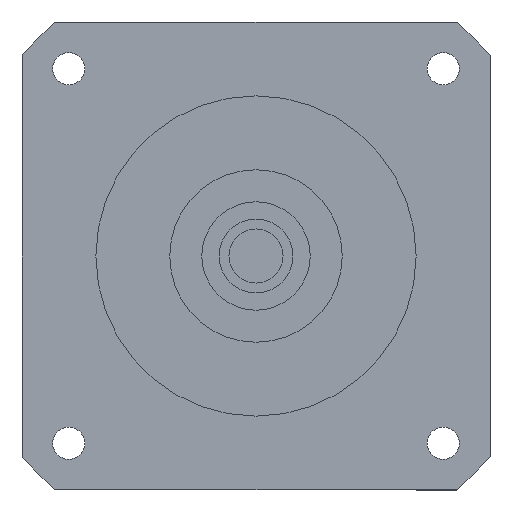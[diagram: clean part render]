
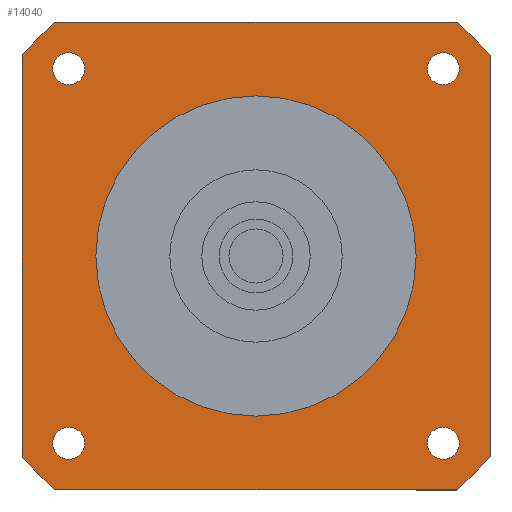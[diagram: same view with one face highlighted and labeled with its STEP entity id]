
A CAD part, left-side view. The second image highlights one B-rep face of the part: STEP entity #14040.
In plain terms, the highlighted planar face has unit normal (-1, 0, 0) as drawn and (0, 0, -1) by its records, which use the part's own axes.
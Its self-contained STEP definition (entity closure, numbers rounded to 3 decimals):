
#10240=CARTESIAN_POINT('',(95.,-81.24,-59.7));
#10250=VERTEX_POINT('',#10240);
#10300=CARTESIAN_POINT('',(0.,0.,
-59.7));
#10310=DIRECTION('',(0.,0.,-1.));
#10320=DIRECTION('',(1.,0.,0.));
#10330=AXIS2_PLACEMENT_3D('',#10300,#10310,#10320);
#10340=CIRCLE('',#10330,125.);
#10350=CARTESIAN_POINT('',(81.24,-95.,-59.7));
#10360=VERTEX_POINT('',#10350);
#10370=EDGE_CURVE('',#10250,#10360,#10340,.T.);
#12470=CARTESIAN_POINT('',(69.514,-76.014,-59.7));
#12480=VERTEX_POINT('',#12470);
#12510=CARTESIAN_POINT('',(76.014,-76.014,-59.7));
#12520=DIRECTION('',(0.,0.,-1.));
#12530=DIRECTION('',(1.,0.,0.));
#12540=AXIS2_PLACEMENT_3D('',#12510,#12520,#12530);
#12550=CIRCLE('',#12540,6.5);
#12560=CARTESIAN_POINT('',(82.514,-76.014,-59.7));
#12570=VERTEX_POINT('',#12560);
#12580=EDGE_CURVE('',#12570,#12480,#12550,.T.);
#12700=CARTESIAN_POINT('',(95.,95.,-59.7));
#12710=DIRECTION('',(0.,0.,-1.));
#12720=DIRECTION('',(1.,0.,0.));
#12730=AXIS2_PLACEMENT_3D('',#12700,#12710,#12720);
#12740=PLANE('',#12730);
#12750=CARTESIAN_POINT('',(-76.014,76.014,-59.7));
#12760=DIRECTION('',(0.,0.,-1.));
#12770=DIRECTION('',(-1.,0.,0.));
#12780=AXIS2_PLACEMENT_3D('',#12750,#12760,#12770);
#12790=CIRCLE('',#12780,6.5);
#12800=CARTESIAN_POINT('',(-82.514,76.014,-59.7));
#12810=VERTEX_POINT('',#12800);
#12820=CARTESIAN_POINT('',(-69.514,76.014,-59.7));
#12830=VERTEX_POINT('',#12820);
#12840=EDGE_CURVE('',#12810,#12830,#12790,.T.);
#12850=ORIENTED_EDGE('',*,*,#12840,.F.);
#12860=EDGE_CURVE('',#12830,#12810,#12790,.T.);
#12870=ORIENTED_EDGE('',*,*,#12860,.F.);
#12880=EDGE_LOOP('',(#12870,#12850));
#12890=FACE_BOUND('',#12880,.T.);
#12900=CARTESIAN_POINT('',(76.014,76.014,-59.7));
#12910=DIRECTION('',(0.,0.,-1.));
#12920=DIRECTION('',(0.,1.,0.));
#12930=AXIS2_PLACEMENT_3D('',#12900,#12910,#12920);
#12940=CIRCLE('',#12930,6.5);
#12950=CARTESIAN_POINT('',(76.014,82.514,-59.7));
#12960=VERTEX_POINT('',#12950);
#12970=CARTESIAN_POINT('',(76.014,69.514,-59.7));
#12980=VERTEX_POINT('',#12970);
#12990=EDGE_CURVE('',#12960,#12980,#12940,.T.);
#13000=ORIENTED_EDGE('',*,*,#12990,.F.);
#13010=EDGE_CURVE('',#12980,#12960,#12940,.T.);
#13020=ORIENTED_EDGE('',*,*,#13010,.F.);
#13030=EDGE_LOOP('',(#13020,#13000));
#13040=FACE_BOUND('',#13030,.T.);
#13050=CARTESIAN_POINT('',(0.,0.,
-59.7));
#13060=DIRECTION('',(0.,0.,1.));
#13070=DIRECTION('',(0.,1.,0.));
#13080=AXIS2_PLACEMENT_3D('',#13050,#13060,#13070);
#13090=CIRCLE('',#13080,65.);
#13100=CARTESIAN_POINT('',(-65.,0.,-59.7));
#13110=VERTEX_POINT('',#13100);
#13120=CARTESIAN_POINT('',(65.,0.,-59.7));
#13130=VERTEX_POINT('',#13120);
#13140=EDGE_CURVE('',#13110,#13130,#13090,.T.);
#13150=ORIENTED_EDGE('',*,*,#13140,.T.);
#13160=CARTESIAN_POINT('',(0.,65.,-59.7));
#13170=VERTEX_POINT('',#13160);
#13180=EDGE_CURVE('',#13170,#13110,#13090,.T.);
#13190=ORIENTED_EDGE('',*,*,#13180,.T.);
#13200=EDGE_CURVE('',#13130,#13170,#13090,.T.);
#13210=ORIENTED_EDGE('',*,*,#13200,.T.);
#13220=EDGE_LOOP('',(#13210,#13190,#13150));
#13230=FACE_BOUND('',#13220,.T.);
#13240=ORIENTED_EDGE('',*,*,#12580,.F.);
#13250=EDGE_CURVE('',#12480,#12570,#12550,.T.);
#13260=ORIENTED_EDGE('',*,*,#13250,.F.);
#13270=EDGE_LOOP('',(#13260,#13240));
#13280=FACE_BOUND('',#13270,.T.);
#13290=CARTESIAN_POINT('',(-76.014,-76.014,-59.7));
#13300=DIRECTION('',(0.,0.,-1.));
#13310=DIRECTION('',(0.,-1.,0.));
#13320=AXIS2_PLACEMENT_3D('',#13290,#13300,#13310);
#13330=CIRCLE('',#13320,6.5);
#13340=CARTESIAN_POINT('',(-76.014,-82.514,-59.7));
#13350=VERTEX_POINT('',#13340);
#13360=CARTESIAN_POINT('',(-76.014,-69.514,-59.7));
#13370=VERTEX_POINT('',#13360);
#13380=EDGE_CURVE('',#13350,#13370,#13330,.T.);
#13390=ORIENTED_EDGE('',*,*,#13380,.F.);
#13400=EDGE_CURVE('',#13370,#13350,#13330,.T.);
#13410=ORIENTED_EDGE('',*,*,#13400,.F.);
#13420=EDGE_LOOP('',(#13410,#13390));
#13430=FACE_BOUND('',#13420,.T.);
#13440=CARTESIAN_POINT('',(-95.,95.,-59.7));
#13450=DIRECTION('',(1.,0.,0.));
#13460=VECTOR('',#13450,1000.);
#13470=LINE('',#13440,#13460);
#13480=CARTESIAN_POINT('',(-81.24,95.,-59.7));
#13490=VERTEX_POINT('',#13480);
#13500=CARTESIAN_POINT('',(81.24,95.,-59.7));
#13510=VERTEX_POINT('',#13500);
#13520=EDGE_CURVE('',#13490,#13510,#13470,.T.);
#13530=ORIENTED_EDGE('',*,*,#13520,.T.);
#13540=CARTESIAN_POINT('',(0.,0.,
-59.7));
#13550=DIRECTION('',(0.,0.,-1.));
#13560=DIRECTION('',(1.,0.,0.));
#13570=AXIS2_PLACEMENT_3D('',#13540,#13550,#13560);
#13580=CIRCLE('',#13570,125.);
#13590=CARTESIAN_POINT('',(-95.,81.24,-59.7));
#13600=VERTEX_POINT('',#13590);
#13610=EDGE_CURVE('',#13600,#13490,#13580,.T.);
#13620=ORIENTED_EDGE('',*,*,#13610,.T.);
#13630=CARTESIAN_POINT('',(-95.,-95.,-59.7));
#13640=DIRECTION('',(0.,1.,0.));
#13650=VECTOR('',#13640,1000.);
#13660=LINE('',#13630,#13650);
#13670=CARTESIAN_POINT('',(-95.,-81.24,-59.7));
#13680=VERTEX_POINT('',#13670);
#13690=EDGE_CURVE('',#13680,#13600,#13660,.T.);
#13700=ORIENTED_EDGE('',*,*,#13690,.T.);
#13710=CARTESIAN_POINT('',(0.,0.,
-59.7));
#13720=DIRECTION('',(0.,0.,-1.));
#13730=DIRECTION('',(1.,0.,0.));
#13740=AXIS2_PLACEMENT_3D('',#13710,#13720,#13730);
#13750=CIRCLE('',#13740,125.);
#13760=CARTESIAN_POINT('',(-81.24,-95.,-59.7));
#13770=VERTEX_POINT('',#13760);
#13780=EDGE_CURVE('',#13770,#13680,#13750,.T.);
#13790=ORIENTED_EDGE('',*,*,#13780,.T.);
#13800=CARTESIAN_POINT('',(95.,-95.,-59.7));
#13810=DIRECTION('',(-1.,0.,0.));
#13820=VECTOR('',#13810,1000.);
#13830=LINE('',#13800,#13820);
#13840=EDGE_CURVE('',#10360,#13770,#13830,.T.);
#13850=ORIENTED_EDGE('',*,*,#13840,.T.);
#13860=ORIENTED_EDGE('',*,*,#10370,.T.);
#13870=CARTESIAN_POINT('',(95.,95.,-59.7));
#13880=DIRECTION('',(0.,-1.,0.));
#13890=VECTOR('',#13880,1000.);
#13900=LINE('',#13870,#13890);
#13910=CARTESIAN_POINT('',(95.,81.24,-59.7));
#13920=VERTEX_POINT('',#13910);
#13930=EDGE_CURVE('',#13920,#10250,#13900,.T.);
#13940=ORIENTED_EDGE('',*,*,#13930,.T.);
#13950=CARTESIAN_POINT('',(0.,0.,
-59.7));
#13960=DIRECTION('',(0.,0.,-1.));
#13970=DIRECTION('',(1.,0.,0.));
#13980=AXIS2_PLACEMENT_3D('',#13950,#13960,#13970);
#13990=CIRCLE('',#13980,125.);
#14000=EDGE_CURVE('',#13510,#13920,#13990,.T.);
#14010=ORIENTED_EDGE('',*,*,#14000,.T.);
#14020=EDGE_LOOP('',(#14010,#13940,#13860,#13850,#13790,#13700,#13620,
#13530));
#14030=FACE_OUTER_BOUND('',#14020,.T.);
#14040=ADVANCED_FACE('',(#12890,#13040,#13230,#13280,#13430,#14030),
#12740,.T.);
